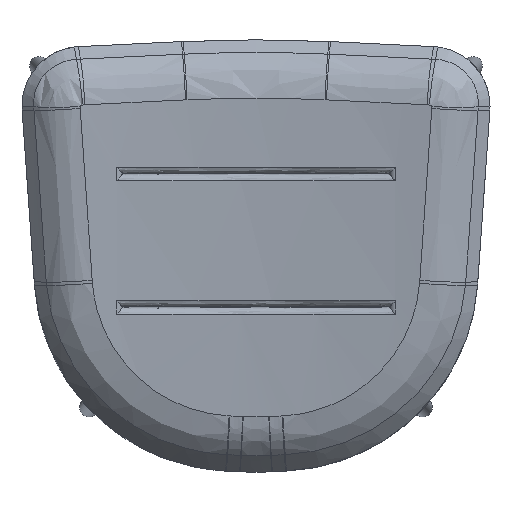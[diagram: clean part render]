
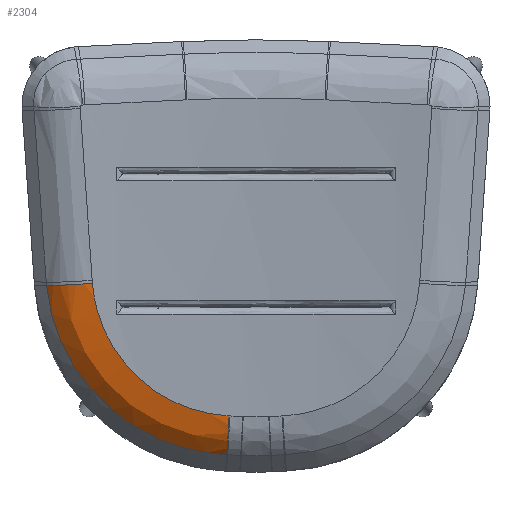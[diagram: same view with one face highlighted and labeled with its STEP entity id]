
A CAD part, top view. The second image highlights one B-rep face of the part: STEP entity #2304.
In plain terms, the highlighted free-form (B-spline) face has degree [3, 3] with [6, 10] control points.
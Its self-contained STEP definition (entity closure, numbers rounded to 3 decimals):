
#54=CIRCLE('',#2503,90.);
#57=CIRCLE('',#2506,90.);
#365=B_SPLINE_SURFACE_WITH_KNOTS('',3,3,((#5667,#5668,#5669,#5670,#5671,
#5672,#5673,#5674,#5675,#5676),(#5677,#5678,#5679,#5680,#5681,#5682,#5683,
#5684,#5685,#5686),(#5687,#5688,#5689,#5690,#5691,#5692,#5693,#5694,#5695,
#5696),(#5697,#5698,#5699,#5700,#5701,#5702,#5703,#5704,#5705,#5706),(#5707,
#5708,#5709,#5710,#5711,#5712,#5713,#5714,#5715,#5716),(#5717,#5718,#5719,
#5720,#5721,#5722,#5723,#5724,#5725,#5726)),.UNSPECIFIED.,.F.,.F.,.F.,(4,
1,1,4),(4,1,1,1,1,1,1,4),(0.,0.286,0.571,1.),(0.,
4.799,9.598,14.397,19.196,23.995,
28.794,33.593),.UNSPECIFIED.);
#495=FACE_OUTER_BOUND('',#647,.T.);
#647=EDGE_LOOP('',(#1719,#1720,#1721,#1722));
#800=B_SPLINE_CURVE_WITH_KNOTS('',3,(#5728,#5729,#5730,#5731,#5732,#5733,
#5734,#5735,#5736,#5737),.UNSPECIFIED.,.F.,.F.,(4,1,1,1,1,1,1,4),(0.001,
4.799,9.598,14.397,19.196,23.995,
28.794,33.593),.UNSPECIFIED.);
#801=B_SPLINE_CURVE_WITH_KNOTS('',3,(#5740,#5741,#5742,#5743,#5744,#5745,
#5746,#5747,#5748,#5749),.UNSPECIFIED.,.F.,.F.,(4,1,1,1,1,1,1,4),(-33.593,
-28.794,-23.995,-19.196,-14.397,
-9.598,-4.799,0.),.UNSPECIFIED.);
#1017=VERTEX_POINT('',#5662);
#1018=VERTEX_POINT('',#5663);
#1019=VERTEX_POINT('',#5727);
#1020=VERTEX_POINT('',#5738);
#1273=EDGE_CURVE('',#1017,#1018,#54,.T.);
#1276=EDGE_CURVE('',#1017,#1019,#800,.T.);
#1277=EDGE_CURVE('',#1019,#1020,#57,.T.);
#1278=EDGE_CURVE('',#1020,#1018,#801,.T.);
#1719=ORIENTED_EDGE('',*,*,#1273,.F.);
#1720=ORIENTED_EDGE('',*,*,#1276,.T.);
#1721=ORIENTED_EDGE('',*,*,#1277,.T.);
#1722=ORIENTED_EDGE('',*,*,#1278,.T.);
#2304=ADVANCED_FACE('',(#495),#365,.F.);
#2503=AXIS2_PLACEMENT_3D('',#5664,#2758,#2759);
#2506=AXIS2_PLACEMENT_3D('',#5739,#2764,#2765);
#2758=DIRECTION('center_axis',(0.999,-0.047,-0.023));
#2759=DIRECTION('ref_axis',(0.018,-0.087,0.996));
#2764=DIRECTION('center_axis',(0.08,-0.992,-0.096));
#2765=DIRECTION('ref_axis',(0.112,-0.087,0.99));
#5662=CARTESIAN_POINT('',(-42.394,-600.658,328.222));
#5663=CARTESIAN_POINT('',(-45.998,-661.716,296.45));
#5664=CARTESIAN_POINT('Origin',(-44.049,-592.815,238.58));
#5667=CARTESIAN_POINT('Ctrl Pts',(-42.385,-600.658,328.222));
#5668=CARTESIAN_POINT('Ctrl Pts',(-57.759,-599.9,328.572));
#5669=CARTESIAN_POINT('Ctrl Pts',(-88.354,-595.243,329.857));
#5670=CARTESIAN_POINT('Ctrl Pts',(-131.96,-579.104,333.382));
#5671=CARTESIAN_POINT('Ctrl Pts',(-171.547,-554.386,338.194));
#5672=CARTESIAN_POINT('Ctrl Pts',(-205.484,-521.967,343.856));
#5673=CARTESIAN_POINT('Ctrl Pts',(-232.26,-483.009,349.858));
#5674=CARTESIAN_POINT('Ctrl Pts',(-250.542,-439.025,355.663));
#5675=CARTESIAN_POINT('Ctrl Pts',(-256.365,-407.596,359.071));
#5676=CARTESIAN_POINT('Ctrl Pts',(-257.592,-391.724,360.598));
#5677=CARTESIAN_POINT('Ctrl Pts',(-42.716,-607.361,327.642));
#5678=CARTESIAN_POINT('Ctrl Pts',(-58.535,-606.59,328.004));
#5679=CARTESIAN_POINT('Ctrl Pts',(-90.019,-601.836,329.336));
#5680=CARTESIAN_POINT('Ctrl Pts',(-134.93,-585.331,333.));
#5681=CARTESIAN_POINT('Ctrl Pts',(-175.763,-560.012,338.011));
#5682=CARTESIAN_POINT('Ctrl Pts',(-210.846,-526.738,343.915));
#5683=CARTESIAN_POINT('Ctrl Pts',(-238.607,-486.659,350.181));
#5684=CARTESIAN_POINT('Ctrl Pts',(-257.636,-441.298,356.241));
#5685=CARTESIAN_POINT('Ctrl Pts',(-263.741,-408.814,359.793));
#5686=CARTESIAN_POINT('Ctrl Pts',(-265.044,-392.397,361.38));
#5687=CARTESIAN_POINT('Ctrl Pts',(-43.406,-620.632,324.965));
#5688=CARTESIAN_POINT('Ctrl Pts',(-60.125,-619.834,325.347));
#5689=CARTESIAN_POINT('Ctrl Pts',(-93.407,-614.885,326.76));
#5690=CARTESIAN_POINT('Ctrl Pts',(-140.959,-597.644,330.665));
#5691=CARTESIAN_POINT('Ctrl Pts',(-184.315,-571.118,336.018));
#5692=CARTESIAN_POINT('Ctrl Pts',(-221.718,-536.13,342.342));
#5693=CARTESIAN_POINT('Ctrl Pts',(-251.476,-493.803,349.065));
#5694=CARTESIAN_POINT('Ctrl Pts',(-272.02,-445.681,355.57));
#5695=CARTESIAN_POINT('Ctrl Pts',(-278.698,-411.086,359.37));
#5696=CARTESIAN_POINT('Ctrl Pts',(-280.157,-393.58,361.061));
#5697=CARTESIAN_POINT('Ctrl Pts',(-44.65,-642.235,315.231));
#5698=CARTESIAN_POINT('Ctrl Pts',(-62.902,-641.39,315.634));
#5699=CARTESIAN_POINT('Ctrl Pts',(-99.243,-636.101,317.138));
#5700=CARTESIAN_POINT('Ctrl Pts',(-151.279,-617.597,321.312));
#5701=CARTESIAN_POINT('Ctrl Pts',(-198.905,-589.016,327.051));
#5702=CARTESIAN_POINT('Ctrl Pts',(-240.214,-551.131,333.85));
#5703=CARTESIAN_POINT('Ctrl Pts',(-273.315,-505.04,341.093));
#5704=CARTESIAN_POINT('Ctrl Pts',(-296.375,-452.33,348.101));
#5705=CARTESIAN_POINT('Ctrl Pts',(-303.993,-414.247,352.178));
#5706=CARTESIAN_POINT('Ctrl Pts',(-305.703,-394.948,353.982));
#5707=CARTESIAN_POINT('Ctrl Pts',(-45.516,-655.232,304.185));
#5708=CARTESIAN_POINT('Ctrl Pts',(-64.754,-654.352,304.592));
#5709=CARTESIAN_POINT('Ctrl Pts',(-103.063,-648.828,306.113));
#5710=CARTESIAN_POINT('Ctrl Pts',(-157.961,-629.477,310.342));
#5711=CARTESIAN_POINT('Ctrl Pts',(-208.28,-599.543,316.161));
#5712=CARTESIAN_POINT('Ctrl Pts',(-252.014,-559.794,323.06));
#5713=CARTESIAN_POINT('Ctrl Pts',(-287.148,-511.331,330.411));
#5714=CARTESIAN_POINT('Ctrl Pts',(-311.7,-455.791,337.521));
#5715=CARTESIAN_POINT('Ctrl Pts',(-319.85,-415.596,341.645));
#5716=CARTESIAN_POINT('Ctrl Pts',(-321.693,-395.217,343.465));
#5717=CARTESIAN_POINT('Ctrl Pts',(-45.998,-661.716,296.45));
#5718=CARTESIAN_POINT('Ctrl Pts',(-65.756,-660.813,296.855));
#5719=CARTESIAN_POINT('Ctrl Pts',(-105.1,-655.155,298.373));
#5720=CARTESIAN_POINT('Ctrl Pts',(-161.49,-635.334,302.593));
#5721=CARTESIAN_POINT('Ctrl Pts',(-213.19,-604.665,308.4));
#5722=CARTESIAN_POINT('Ctrl Pts',(-258.143,-563.925,315.283));
#5723=CARTESIAN_POINT('Ctrl Pts',(-294.27,-514.232,322.617));
#5724=CARTESIAN_POINT('Ctrl Pts',(-319.526,-457.261,329.705));
#5725=CARTESIAN_POINT('Ctrl Pts',(-327.91,-416.019,333.81));
#5726=CARTESIAN_POINT('Ctrl Pts',(-329.805,-395.111,335.62));
#5727=CARTESIAN_POINT('',(-257.592,-391.724,360.598));
#5728=CARTESIAN_POINT('Ctrl Pts',(-42.394,-600.658,328.222));
#5729=CARTESIAN_POINT('Ctrl Pts',(-57.766,-599.899,328.573));
#5730=CARTESIAN_POINT('Ctrl Pts',(-88.357,-595.242,329.857));
#5731=CARTESIAN_POINT('Ctrl Pts',(-131.96,-579.104,333.382));
#5732=CARTESIAN_POINT('Ctrl Pts',(-171.547,-554.386,338.194));
#5733=CARTESIAN_POINT('Ctrl Pts',(-205.484,-521.967,343.856));
#5734=CARTESIAN_POINT('Ctrl Pts',(-232.26,-483.009,349.858));
#5735=CARTESIAN_POINT('Ctrl Pts',(-250.542,-439.025,355.663));
#5736=CARTESIAN_POINT('Ctrl Pts',(-256.365,-407.596,359.071));
#5737=CARTESIAN_POINT('Ctrl Pts',(-257.592,-391.724,360.598));
#5738=CARTESIAN_POINT('',(-329.805,-395.111,335.62));
#5739=CARTESIAN_POINT('Origin',(-267.645,-383.929,271.502));
#5740=CARTESIAN_POINT('Ctrl Pts',(-329.805,-395.111,335.62));
#5741=CARTESIAN_POINT('Ctrl Pts',(-327.91,-416.019,333.81));
#5742=CARTESIAN_POINT('Ctrl Pts',(-319.526,-457.261,329.705));
#5743=CARTESIAN_POINT('Ctrl Pts',(-294.27,-514.232,322.617));
#5744=CARTESIAN_POINT('Ctrl Pts',(-258.143,-563.925,315.283));
#5745=CARTESIAN_POINT('Ctrl Pts',(-213.19,-604.665,308.4));
#5746=CARTESIAN_POINT('Ctrl Pts',(-161.49,-635.334,302.593));
#5747=CARTESIAN_POINT('Ctrl Pts',(-105.1,-655.155,298.373));
#5748=CARTESIAN_POINT('Ctrl Pts',(-65.756,-660.813,296.855));
#5749=CARTESIAN_POINT('Ctrl Pts',(-45.998,-661.716,296.45));
